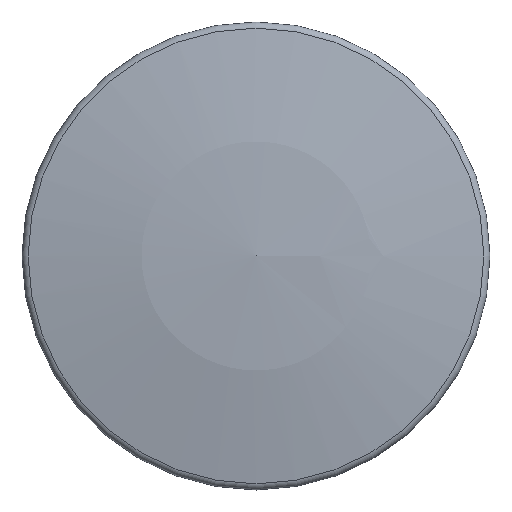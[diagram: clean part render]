
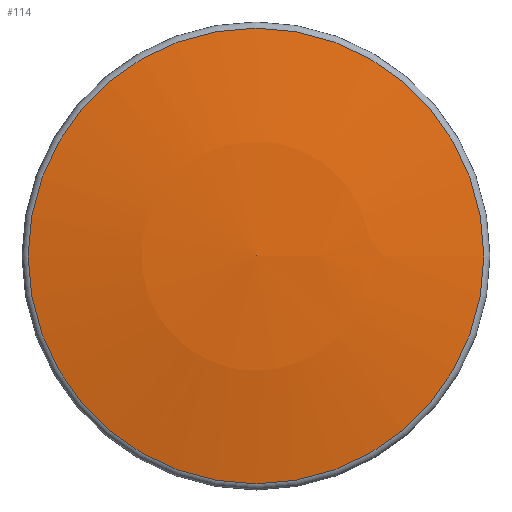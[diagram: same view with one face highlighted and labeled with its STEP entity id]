
A CAD part, top view. The second image highlights one B-rep face of the part: STEP entity #114.
In plain terms, the highlighted spherical face has radius 151.099 mm.
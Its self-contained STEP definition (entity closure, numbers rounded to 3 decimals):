
#28=FACE_OUTER_BOUND($,#38,.T.);
#38=EDGE_LOOP($,(#83));
#56=CIRCLE($,#128,29.646);
#65=VERTEX_POINT($,#188);
#74=EDGE_CURVE($,#65,#65,#56,.T.);
#83=ORIENTED_EDGE($,*,*,#74,.F.);
#101=SPHERICAL_SURFACE($,#127,151.099);
#114=ADVANCED_FACE($,(#28),#101,.T.);
#127=AXIS2_PLACEMENT_3D($,#187,#148,#149);
#128=AXIS2_PLACEMENT_3D($,#189,#150,#151);
#148=DIRECTION('center_axis',(0.,0.,1.));
#149=DIRECTION('ref_axis',(1.,0.,0.));
#150=DIRECTION('center_axis',(0.,0.,-1.));
#151=DIRECTION('ref_axis',(1.,0.,0.));
#187=CARTESIAN_POINT('Origin',(0.,0.,-104.499));
#188=CARTESIAN_POINT('',(0.,29.646,43.663));
#189=CARTESIAN_POINT('Origin',(0.,0.,43.663));
